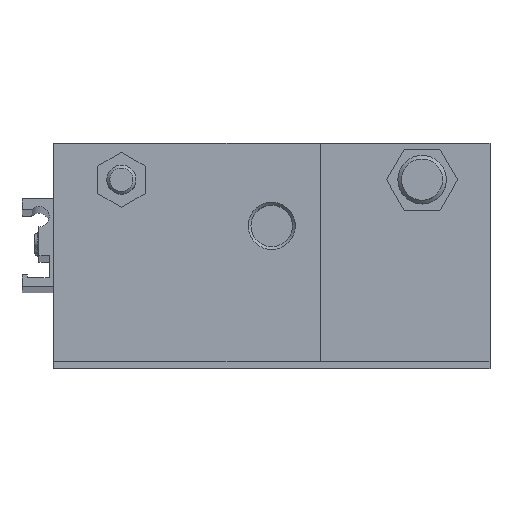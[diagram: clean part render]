
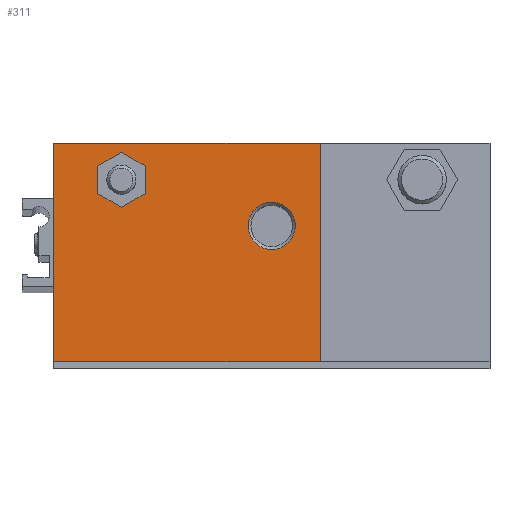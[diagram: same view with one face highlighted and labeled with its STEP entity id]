
A CAD part, top view. The second image highlights one B-rep face of the part: STEP entity #311.
In plain terms, the highlighted planar face has unit normal (0, 0, 1) as drawn and (0, 0, -1) by its records, which use the part's own axes.
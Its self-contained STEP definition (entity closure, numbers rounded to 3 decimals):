
#311 = ADVANCED_FACE( '', ( #776, #777, #778 ), #779, .F. );
#776 = FACE_BOUND( '', #1536, .T. );
#777 = FACE_BOUND( '', #1537, .T. );
#778 = FACE_OUTER_BOUND( '', #1538, .T. );
#779 = PLANE( '', #1539 );
#1536 = EDGE_LOOP( '', ( #2318, #2319, #2320, #2321, #2322, #2323 ) );
#1537 = EDGE_LOOP( '', ( #2324 ) );
#1538 = EDGE_LOOP( '', ( #2325, #2326, #2327, #2328 ) );
#1539 = AXIS2_PLACEMENT_3D( '', #2329, #2330, #2331 );
#2318 = ORIENTED_EDGE( '', *, *, #3746, .T. );
#2319 = ORIENTED_EDGE( '', *, *, #3747, .T. );
#2320 = ORIENTED_EDGE( '', *, *, #3748, .T. );
#2321 = ORIENTED_EDGE( '', *, *, #3749, .T. );
#2322 = ORIENTED_EDGE( '', *, *, #3750, .T. );
#2323 = ORIENTED_EDGE( '', *, *, #3751, .T. );
#2324 = ORIENTED_EDGE( '', *, *, #3752, .T. );
#2325 = ORIENTED_EDGE( '', *, *, #3753, .T. );
#2326 = ORIENTED_EDGE( '', *, *, #3754, .F. );
#2327 = ORIENTED_EDGE( '', *, *, #3755, .F. );
#2328 = ORIENTED_EDGE( '', *, *, #3756, .T. );
#2329 = CARTESIAN_POINT( '', ( 10., 45., -794.5 ) );
#2330 = DIRECTION( '', ( 0., 0., 1. ) );
#2331 = DIRECTION( '', ( 1., 0., 0. ) );
#3746 = EDGE_CURVE( '', #4309, #4310, #4311, .T. );
#3747 = EDGE_CURVE( '', #4310, #4312, #4313, .T. );
#3748 = EDGE_CURVE( '', #4312, #4314, #4315, .T. );
#3749 = EDGE_CURVE( '', #4314, #4316, #4317, .T. );
#3750 = EDGE_CURVE( '', #4316, #4318, #4319, .T. );
#3751 = EDGE_CURVE( '', #4318, #4309, #4320, .T. );
#3752 = EDGE_CURVE( '', #4321, #4321, #4322, .T. );
#3753 = EDGE_CURVE( '', #4323, #4324, #4325, .T. );
#3754 = EDGE_CURVE( '', #4326, #4324, #4327, .T. );
#3755 = EDGE_CURVE( '', #4328, #4326, #4329, .T. );
#3756 = EDGE_CURVE( '', #4328, #4323, #4330, .T. );
#4309 = VERTEX_POINT( '', #5121 );
#4310 = VERTEX_POINT( '', #5122 );
#4311 = LINE( '', #5123, #5124 );
#4312 = VERTEX_POINT( '', #5125 );
#4313 = LINE( '', #5126, #5127 );
#4314 = VERTEX_POINT( '', #5128 );
#4315 = LINE( '', #5129, #5130 );
#4316 = VERTEX_POINT( '', #5131 );
#4317 = LINE( '', #5132, #5133 );
#4318 = VERTEX_POINT( '', #5134 );
#4319 = LINE( '', #5135, #5136 );
#4320 = LINE( '', #5137, #5138 );
#4321 = VERTEX_POINT( '', #5139 );
#4322 = CIRCLE( '', #5140, 4.864 );
#4323 = VERTEX_POINT( '', #5141 );
#4324 = VERTEX_POINT( '', #5142 );
#4325 = LINE( '', #5143, #5144 );
#4326 = VERTEX_POINT( '', #5145 );
#4327 = LINE( '', #5146, #5147 );
#4328 = VERTEX_POINT( '', #5148 );
#4329 = LINE( '', #5149, #5150 );
#4330 = LINE( '', #5151, #5152 );
#5121 = CARTESIAN_POINT( '', ( -31., 13.158, -794.5 ) );
#5122 = CARTESIAN_POINT( '', ( -35.9, 10.329, -794.5 ) );
#5123 = CARTESIAN_POINT( '', ( 13.538, 38.872, -794.5 ) );
#5124 = VECTOR( '', #6095, 1000. );
#5125 = CARTESIAN_POINT( '', ( -35.9, 4.671, -794.5 ) );
#5126 = CARTESIAN_POINT( '', ( -35.9, 45., -794.5 ) );
#5127 = VECTOR( '', #6096, 1000. );
#5128 = CARTESIAN_POINT( '', ( -31., 1.842, -794.5 ) );
#5129 = CARTESIAN_POINT( '', ( -18.938, -5.122, -794.5 ) );
#5130 = VECTOR( '', #6097, 1000. );
#5131 = CARTESIAN_POINT( '', ( -26.1, 4.671, -794.5 ) );
#5132 = CARTESIAN_POINT( '', ( 18.438, 30.385, -794.5 ) );
#5133 = VECTOR( '', #6098, 1000. );
#5134 = CARTESIAN_POINT( '', ( -26.1, 10.329, -794.5 ) );
#5135 = CARTESIAN_POINT( '', ( -26.1, 45., -794.5 ) );
#5136 = VECTOR( '', #6099, 1000. );
#5137 = CARTESIAN_POINT( '', ( -14.038, 3.365, -794.5 ) );
#5138 = VECTOR( '', #6100, 1000. );
#5139 = CARTESIAN_POINT( '', ( 4.864, 17., -794.5 ) );
#5140 = AXIS2_PLACEMENT_3D( '', #6101, #6102, #6103 );
#5141 = CARTESIAN_POINT( '', ( 10., 0., -794.5 ) );
#5142 = CARTESIAN_POINT( '', ( -45., 0., -794.5 ) );
#5143 = CARTESIAN_POINT( '', ( 10., 0., -794.5 ) );
#5144 = VECTOR( '', #6104, 1000. );
#5145 = CARTESIAN_POINT( '', ( -45., 45., -794.5 ) );
#5146 = CARTESIAN_POINT( '', ( -45., 45., -794.5 ) );
#5147 = VECTOR( '', #6105, 1000. );
#5148 = CARTESIAN_POINT( '', ( 10., 45., -794.5 ) );
#5149 = CARTESIAN_POINT( '', ( 10., 45., -794.5 ) );
#5150 = VECTOR( '', #6106, 1000. );
#5151 = CARTESIAN_POINT( '', ( 10., 45., -794.5 ) );
#5152 = VECTOR( '', #6107, 1000. );
#6095 = DIRECTION( '', ( -0.866, -0.5, 0. ) );
#6096 = DIRECTION( '', ( 0., -1., 0. ) );
#6097 = DIRECTION( '', ( 0.866, -0.5, 0. ) );
#6098 = DIRECTION( '', ( 0.866, 0.5, 0. ) );
#6099 = DIRECTION( '', ( 0., 1., 0. ) );
#6100 = DIRECTION( '', ( -0.866, 0.5, 0. ) );
#6101 = CARTESIAN_POINT( '', ( 0., 17., -794.5 ) );
#6102 = DIRECTION( '', ( 0., 0., 1. ) );
#6103 = DIRECTION( '', ( 1., 0., 0. ) );
#6104 = DIRECTION( '', ( -1., 0., 0. ) );
#6105 = DIRECTION( '', ( 0., -1., 0. ) );
#6106 = DIRECTION( '', ( -1., 0., 0. ) );
#6107 = DIRECTION( '', ( 0., -1., 0. ) );
